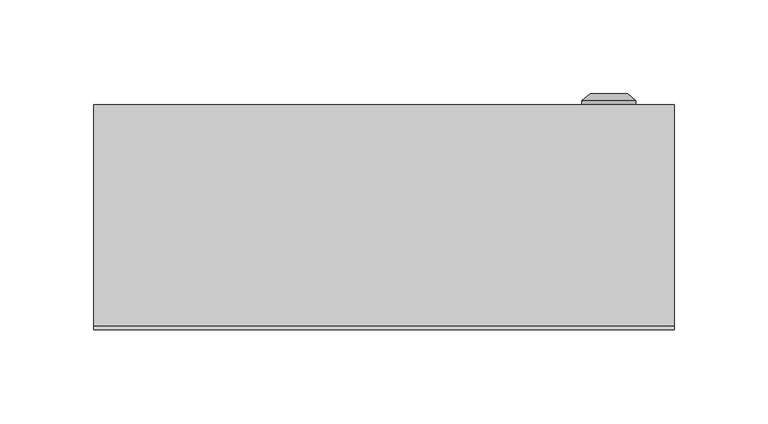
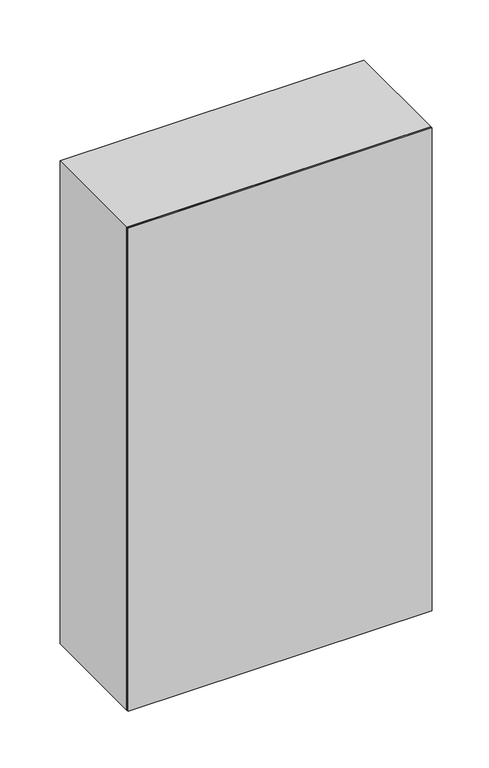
"""IFC4 building model written with IfcOpenShell, lengths in millimetres: proxy geometry, ЩРН_36 : ЩРН-36."""

from ifc_helpers import new_model, si_unit, frame, origin, origin_with_axes, place, context, project, spatial, polyline, circle_curve, outline, extrude, source, transform, mapped, element, save
from ifc_brep_helpers import plane_surface, cylinder_surface, revolved_surface, advanced_brep


def electrical_equipment_eb1f5e51(model_context):
    return source(origin(), model_context, "Body", "SolidModel", [
        advanced_brep(
        [(105.669873, 120.0, 255.0), (134.330127, 120.0, 255.0), (120.0, 120.0, 255.0), (105.669873, 122.366592, 255.0), (134.330127, 122.366592, 255.0), (110.0, 126.0, 255.0), (130.0, 126.0, 255.0), (118.1080471, 126.0, 255.0), (121.8919529, 126.0, 255.0), (118.1080471, 124.9822294, 255.0), (121.8919529, 124.9822294, 255.0), (120.0, 124.9822294, 255.0)],
        [
            (0, 1, circle_curve(frame((120.0, 120.0, 255.0), z_axis=(0.0, -1.0, 0.0), x_axis=(1.0, 0.0, 0.0)), 14.330127)),
            (1, 2),
            (2, 0),
            (1, 0, circle_curve(frame((120.0, 120.0, 255.0), z_axis=(0.0, -1.0, 0.0), x_axis=(1.0, 0.0, 0.0)), 14.330127)),
            (3, 4, circle_curve(frame((120.0, 122.366592, 255.0), z_axis=(0.0, -1.0, 0.0), x_axis=(1.0, 0.0, 0.0)), 14.330127)),
            (4, 1),
            (0, 3),
            (4, 3, circle_curve(frame((120.0, 122.366592, 255.0), z_axis=(0.0, -1.0, 0.0), x_axis=(1.0, 0.0, 0.0)), 14.330127)),
            (5, 6, circle_curve(frame((120.0, 126.0, 255.0), z_axis=(0.0, -1.0, 0.0), x_axis=(1.0, 0.0, 0.0)), 10.0)),
            (6, 4),
            (3, 5),
            (6, 5, circle_curve(frame((120.0, 126.0, 255.0), z_axis=(0.0, -1.0, 0.0), x_axis=(1.0, 0.0, 0.0)), 10.0)),
            (7, 8, circle_curve(frame((120.0, 126.0, 255.0), z_axis=(0.0, -1.0, 0.0), x_axis=(1.0, 0.0, 0.0)), 1.8919529)),
            (8, 6),
            (5, 7),
            (8, 7, circle_curve(frame((120.0, 126.0, 255.0), z_axis=(0.0, -1.0, 0.0), x_axis=(1.0, 0.0, 0.0)), 1.8919529)),
            (9, 10, circle_curve(frame((120.0, 124.9822294, 255.0), z_axis=(0.0, -1.0, 0.0), x_axis=(1.0, 0.0, 0.0)), 1.8919529)),
            (10, 8),
            (7, 9),
            (10, 9, circle_curve(frame((120.0, 124.9822294, 255.0), z_axis=(0.0, -1.0, 0.0), x_axis=(1.0, 0.0, 0.0)), 1.8919529)),
            (11, 10),
            (9, 11),
        ],
        [
            plane_surface(frame((120.0, 120.0, 255.0), z_axis=(0.0, -1.0, 0.0), x_axis=(1.0, 0.0, 0.0))),
            cylinder_surface(frame((120.0, 133.1348851, 255.0), z_axis=(0.0, 1.0, 0.0), x_axis=(1.0, 0.0, 0.0)), 14.330127),
            revolved_surface(polyline([(134.330127, 122.366592, 255.0), (130.0, 126.0, 255.0)]), (120.0, 133.1348851, 255.0), (0.0, 1.0, 0.0)),
            plane_surface(frame((120.0, 126.0, 255.0), z_axis=(0.0, 1.0, 0.0), x_axis=(1.0, 0.0, 0.0))),
            revolved_surface(polyline([(121.8919529, 126.0, 255.0), (121.8919529, 124.9822294, 255.0)]), (120.0, 133.1348851, 255.0), (0.0, 1.0, 0.0)),
            plane_surface(frame((120.0, 124.9822294, 255.0), z_axis=(0.0, 1.0, 0.0), x_axis=(1.0, 0.0, 0.0))),
        ],
        [
            (0, [[1, 2, 3]]),
            (0, [[4, -3, -2]]),
            (1, [[5, 6, -1, 7]]),
            (1, [[8, -7, -4, -6]]),
            (2, [[9, 10, -5, 11]]),
            (2, [[12, -11, -8, -10]]),
            (3, [[13, 14, -9, 15]]),
            (3, [[16, -15, -12, -14]]),
            (4, [[17, 18, -13, 19]]),
            (4, [[20, -19, -16, -18]]),
            (5, [[21, -17, 22]]),
            (5, [[-22, -20, -21]]),
        ],
    ),
        extrude(outline(polyline([(149.0, 95.0), (-149.0, 95.0), (-149.0, 120.0), (149.0, 120.0), (149.0, 95.0)])), frame((0.0, 0.0, 6.0), z_axis=(0.0, 0.0, 1.0), x_axis=(1.0, 0.0, 0.0)), (0.0, 0.0, 1.0), 508.0),
        extrude(outline(polyline([(520.0, -155.0033905), (0.0, -155.0033905), (0.0, 154.9966095), (520.0, 154.9966095), (520.0, -155.0033905)]), holes=[polyline([(515.0, -150.0), (515.0, 150.0), (5.0, 150.0), (5.0, -150.0), (515.0, -150.0)])]), frame((0.0, 2.0, 0.0), z_axis=(0.0, 1.0, 0.0), x_axis=(0.0, 0.0, 1.0)), (0.0, 0.0, 1.0), 118.0),
        extrude(outline(polyline([(155.0, 0.0), (-155.0, 0.0), (-155.0, 2.0), (155.0, 2.0), (155.0, 0.0)])), origin_with_axes(), (0.0, 0.0, 1.0), 520.0),
    ])


if __name__ == "__main__":
    model = new_model("IFC4")
    model_context = context("Model", 3, world=origin())
    ifc_project = project(units=[si_unit("LENGTHUNIT", "METRE", prefix="MILLI")], contexts=[model_context])
    site = spatial("IfcSite", under=ifc_project)
    building = spatial("IfcBuilding", under=site)
    placement = place(None, origin())
    electrical_equipment_shape = electrical_equipment_eb1f5e51(model_context)
    element("IfcBuildingElementProxy", 1, Name="ЩРН_36 : ЩРН-36", ObjectType="ЩРН_36 : ЩРН-36", at=placement, inside=building, context=model_context, shape_type="MappedRepresentation", body=[
        mapped(electrical_equipment_shape, transform((0.0, 0.0, 0.0), x_axis=(1.0, 0.0, 0.0), y_axis=(0.0, 1.0, 0.0), z_axis=(0.0, 0.0, 1.0))),
    ])
    save(model, "model.ifc")
